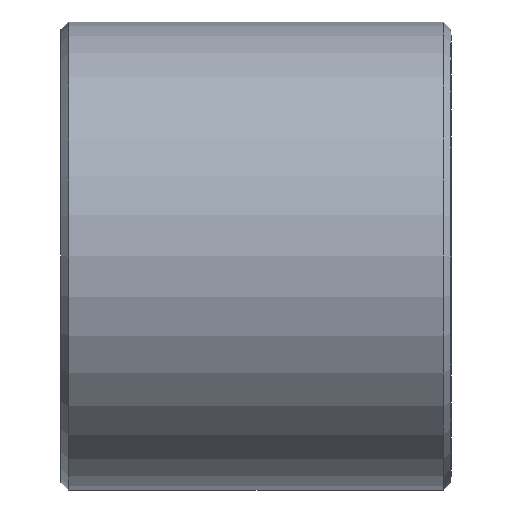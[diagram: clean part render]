
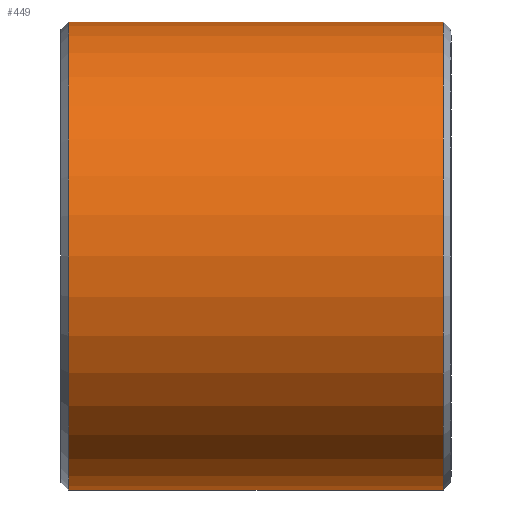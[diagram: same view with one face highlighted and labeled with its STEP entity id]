
A CAD part, left-side view. The second image highlights one B-rep face of the part: STEP entity #449.
In plain terms, the highlighted cylindrical face has radius 15 mm (diameter 30 mm), a partial arc.
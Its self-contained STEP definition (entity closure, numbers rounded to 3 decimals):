
#23 = CARTESIAN_POINT ( 'NONE',  ( 0., -23., 15. ) ) ;
#66 = CARTESIAN_POINT ( 'NONE',  ( 0., -23., -15. ) ) ;
#81 = ORIENTED_EDGE ( 'NONE', *, *, #1332, .T. ) ;
#91 = VERTEX_POINT ( 'NONE', #726 ) ;
#137 = AXIS2_PLACEMENT_3D ( 'NONE', #486, #1308, #400 ) ;
#160 = DIRECTION ( 'NONE',  ( 0., 1., 0. ) ) ;
#240 = CARTESIAN_POINT ( 'NONE',  ( 0., -23., 0. ) ) ;
#304 = LINE ( 'NONE', #991, #1005 ) ;
#311 = EDGE_CURVE ( 'NONE', #394, #455, #304, .T. ) ;
#339 = DIRECTION ( 'NONE',  ( 0., 0., -1. ) ) ;
#377 = VECTOR ( 'NONE', #671, 1000. ) ;
#386 = ORIENTED_EDGE ( 'NONE', *, *, #873, .F. ) ;
#391 = AXIS2_PLACEMENT_3D ( 'NONE', #240, #561, #339 ) ;
#394 = VERTEX_POINT ( 'NONE', #23 ) ;
#400 = DIRECTION ( 'NONE',  ( 0., 0., 1. ) ) ;
#449 = ADVANCED_FACE ( 'NONE', ( #1325 ), #1150, .T. ) ;
#455 = VERTEX_POINT ( 'NONE', #915 ) ;
#486 = CARTESIAN_POINT ( 'NONE',  ( 0., 1., 0. ) ) ;
#489 = AXIS2_PLACEMENT_3D ( 'NONE', #1328, #160, #1109 ) ;
#522 = CIRCLE ( 'NONE', #391, 15. ) ;
#561 = DIRECTION ( 'NONE',  ( 0., 1., 0. ) ) ;
#563 = CARTESIAN_POINT ( 'NONE',  ( 0., 65.513, -15. ) ) ;
#580 = DIRECTION ( 'NONE',  ( 0., 1., 0. ) ) ;
#602 = ORIENTED_EDGE ( 'NONE', *, *, #311, .T. ) ;
#664 = LINE ( 'NONE', #563, #377 ) ;
#671 = DIRECTION ( 'NONE',  ( 0., 1., 0. ) ) ;
#726 = CARTESIAN_POINT ( 'NONE',  ( 0., 1., -15. ) ) ;
#847 = ORIENTED_EDGE ( 'NONE', *, *, #1012, .T. ) ;
#873 = EDGE_CURVE ( 'NONE', #1248, #91, #664, .T. ) ;
#915 = CARTESIAN_POINT ( 'NONE',  ( 0., 1., 15. ) ) ;
#989 = CIRCLE ( 'NONE', #137, 15. ) ;
#991 = CARTESIAN_POINT ( 'NONE',  ( 0., 65.513, 15. ) ) ;
#1005 = VECTOR ( 'NONE', #580, 1000. ) ;
#1012 = EDGE_CURVE ( 'NONE', #1248, #394, #522, .T. ) ;
#1109 = DIRECTION ( 'NONE',  ( 0., 0., 1. ) ) ;
#1114 = EDGE_LOOP ( 'NONE', ( #386, #847, #602, #81 ) ) ;
#1150 = CYLINDRICAL_SURFACE ( 'NONE', #489, 15. ) ;
#1248 = VERTEX_POINT ( 'NONE', #66 ) ;
#1308 = DIRECTION ( 'NONE',  ( 0., -1., 0. ) ) ;
#1325 = FACE_OUTER_BOUND ( 'NONE', #1114, .T. ) ;
#1328 = CARTESIAN_POINT ( 'NONE',  ( 0., 65.513, 0. ) ) ;
#1332 = EDGE_CURVE ( 'NONE', #455, #91, #989, .T. ) ;
